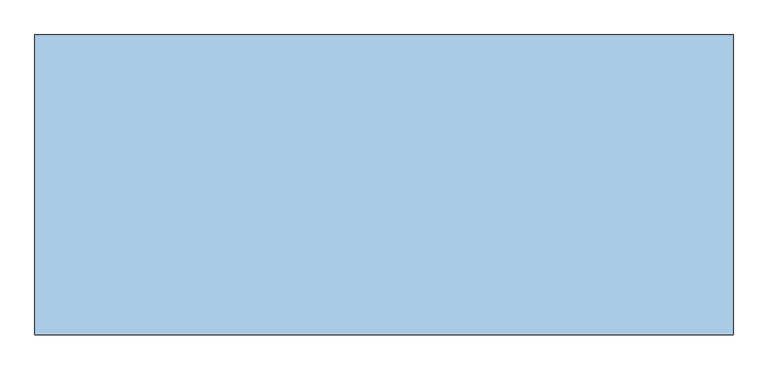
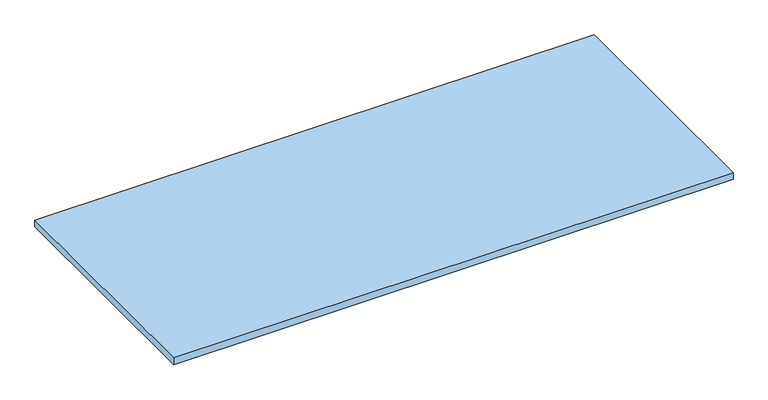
"""IFC4 building model written with IfcOpenShell, lengths in millimetres: window geometry, L&A_KlearSky_R19_GM_SingleSlope_LOD200 : KlearSky_Single Slope."""

from ifc_helpers import new_model, si_unit, frame, origin, place, context, project, spatial, polyline, outline, extrude, source, transform, mapped, element, save


def window_518dc242(model_context):
    return source(origin(), model_context, "Body", "SweptSolid", [
        extrude(outline(polyline([(1278.2422425, -106.1717315), (1278.2422425, -1245.9967315), (-1376.0577575, -1245.9967315), (-1376.0577575, -106.1717315), (1278.2422425, -106.1717315)])), frame((0.0, 0.0, 4357.8876055), z_axis=(0.0, 0.0, 1.0), x_axis=(1.0, 0.0, 0.0)), (0.0, 0.0, 1.0), 33.3375),
    ])


if __name__ == "__main__":
    model = new_model("IFC4")
    model_context = context("Model", 3, world=origin())
    ifc_project = project(units=[si_unit("LENGTHUNIT", "METRE", prefix="MILLI")], contexts=[model_context])
    site = spatial("IfcSite", under=ifc_project)
    building = spatial("IfcBuilding", under=site)
    placement = place(None, origin())
    window_shape = window_518dc242(model_context)
    element("IfcWindow", 1, ObjectType="L&A_KlearSky_R19_GM_SingleSlope_LOD200 : KlearSky_Single Slope", at=placement, inside=building, context=model_context, shape_type="MappedRepresentation", body=[
        mapped(window_shape, transform((0.0, 0.0, 0.0), x_axis=(1.0, 0.0, 0.0), y_axis=(0.0, 1.0, 0.0), z_axis=(0.0, 0.0, 1.0))),
    ])
    save(model, "model.ifc")
